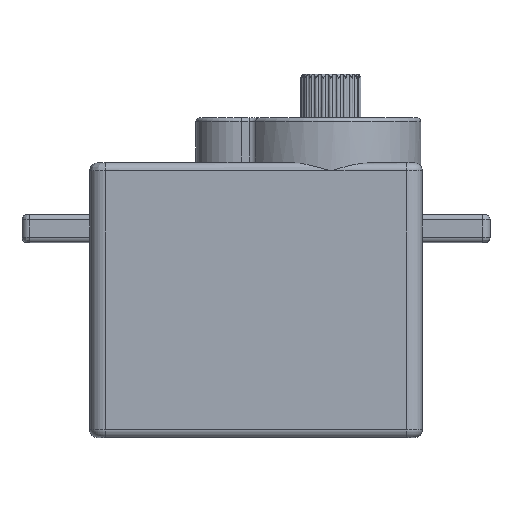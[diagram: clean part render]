
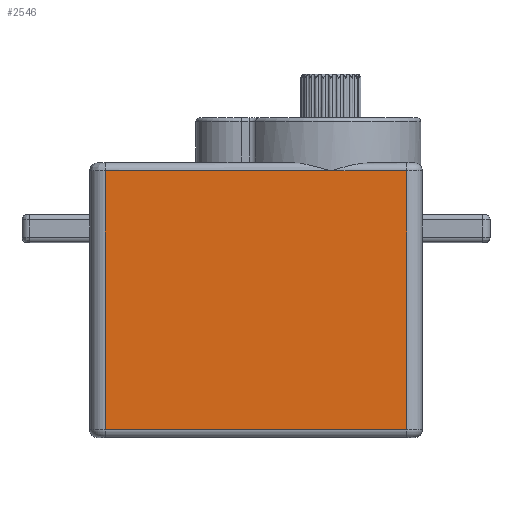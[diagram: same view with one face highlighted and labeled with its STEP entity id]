
A CAD part, top view. The second image highlights one B-rep face of the part: STEP entity #2546.
In plain terms, the highlighted planar face has unit normal (0, 0, 1).
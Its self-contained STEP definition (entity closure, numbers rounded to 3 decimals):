
#78=DIRECTION('',(1.,0.,0.));
#79=VECTOR('',#78,4.85);
#80=CARTESIAN_POINT('',(4.8,17.1,5.75));
#81=LINE('',#80,#79);
#82=DIRECTION('',(0.,-1.,0.));
#83=VECTOR('',#82,16.6);
#84=CARTESIAN_POINT('',(9.65,17.1,5.75));
#85=LINE('',#84,#83);
#86=DIRECTION('',(-1.,0.,0.));
#87=VECTOR('',#86,19.3);
#88=CARTESIAN_POINT('',(9.65,0.5,5.75));
#89=LINE('',#88,#87);
#90=DIRECTION('',(0.,-1.,0.));
#91=VECTOR('',#90,16.6);
#92=CARTESIAN_POINT('',(-9.65,17.1,5.75));
#93=LINE('',#92,#91);
#94=DIRECTION('',(1.,0.,0.));
#95=VECTOR('',#94,14.45);
#96=CARTESIAN_POINT('',(-9.65,17.1,5.75));
#97=LINE('',#96,#95);
#2034=CARTESIAN_POINT('',(9.65,17.1,5.75));
#2036=VERTEX_POINT('',#2034);
#2040=CARTESIAN_POINT('',(4.8,17.1,5.75));
#2041=VERTEX_POINT('',#2040);
#2058=CARTESIAN_POINT('',(-9.65,17.1,5.75));
#2059=VERTEX_POINT('',#2058);
#2066=CARTESIAN_POINT('',(-9.65,0.5,5.75));
#2068=VERTEX_POINT('',#2066);
#2092=CARTESIAN_POINT('',(9.65,0.5,5.75));
#2093=VERTEX_POINT('',#2092);
#2530=CARTESIAN_POINT('',(-10.65,0.,5.75));
#2531=DIRECTION('',(0.,0.,1.));
#2532=DIRECTION('',(1.,0.,0.));
#2533=AXIS2_PLACEMENT_3D('',#2530,#2531,#2532);
#2534=PLANE('',#2533);
#2536=ORIENTED_EDGE('',*,*,#2535,.T.);
#2538=ORIENTED_EDGE('',*,*,#2537,.T.);
#2539=ORIENTED_EDGE('',*,*,#2524,.T.);
#2541=ORIENTED_EDGE('',*,*,#2540,.F.);
#2543=ORIENTED_EDGE('',*,*,#2542,.T.);
#2544=EDGE_LOOP('',(#2536,#2538,#2539,#2541,#2543));
#2545=FACE_OUTER_BOUND('',#2544,.F.);
#2524=EDGE_CURVE('',#2093,#2068,#89,.T.);
#2535=EDGE_CURVE('',#2041,#2036,#81,.T.);
#2537=EDGE_CURVE('',#2036,#2093,#85,.T.);
#2540=EDGE_CURVE('',#2059,#2068,#93,.T.);
#2542=EDGE_CURVE('',#2059,#2041,#97,.T.);
#2546=ADVANCED_FACE('',(#2545),#2534,.T.);
